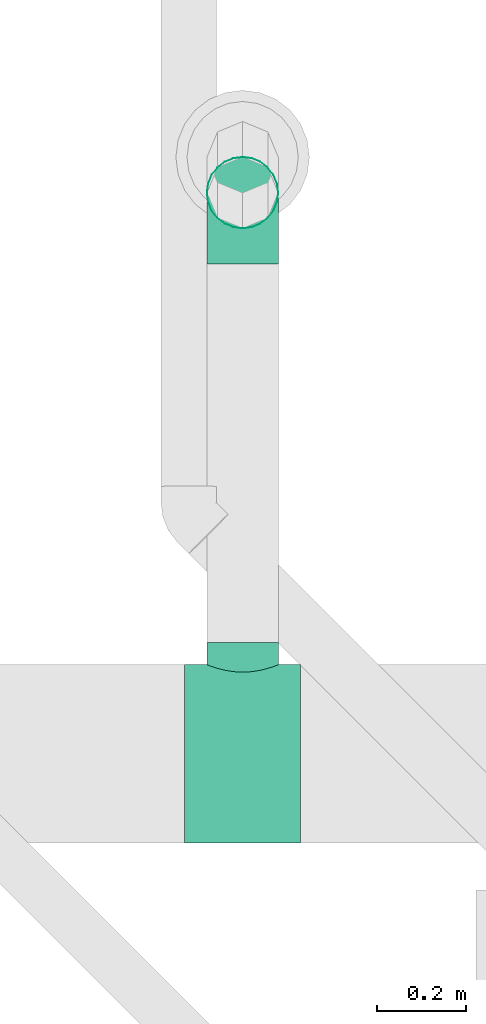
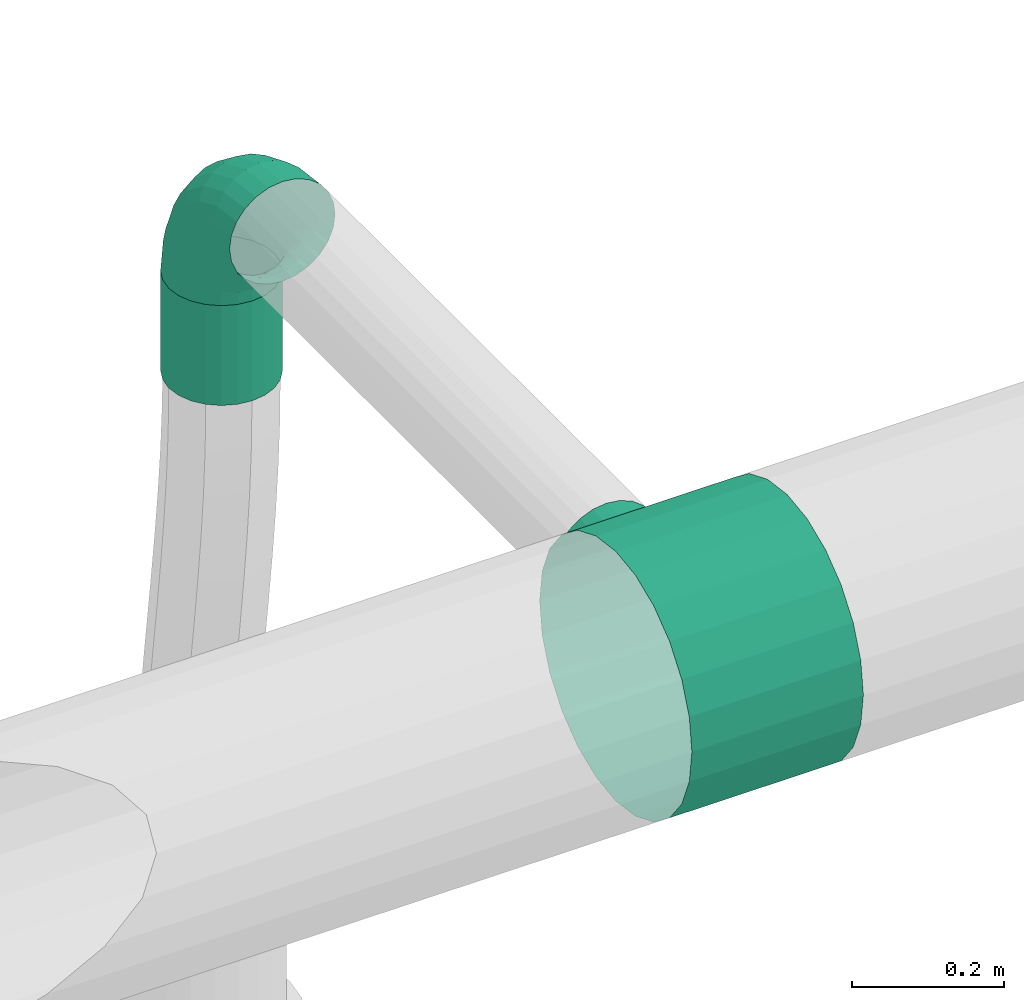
# One storey, part 151 of 374: 2 flow fittings, 1 flow segment.
"""IFC2X3 building model written with IfcOpenShell, lengths in metres."""

from ifc_helpers import new_model, si_unit, direction, origin, place, context, subcontext, project, spatial, open_shell, surface_model, source, transform, mapped, element, save


model = new_model("IFC2X3")

# Units and contexts
model_context = context("Model", 3, precision=1e-05, world=origin(), true_north=direction((-0.4480736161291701, 0.8939966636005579)))
body_context = subcontext(model_context, "Body", "Model", "MODEL_VIEW")
ifc_project = project(units=[si_unit("LENGTHUNIT", "METRE"), si_unit("AREAUNIT", "SQUARE_METRE"), si_unit("VOLUMEUNIT", "CUBIC_METRE"), si_unit("PLANEANGLEUNIT", "RADIAN"), si_unit("THERMODYNAMICTEMPERATUREUNIT", "KELVIN"), si_unit("MASSUNIT", "GRAM", prefix="KILO"), si_unit("TIMEUNIT", "SECOND")], contexts=[model_context])

# Site, building, storey
site_placement = place(None, origin())
site = spatial("IfcSite", under=ifc_project, at=site_placement, Name="Site 1", CompositionType="ELEMENT")
building_placement = place(site_placement, origin())
building = spatial("IfcBuilding", under=site, at=building_placement, Name="Undefined", CompositionType="ELEMENT")
storey_placement = place(building_placement, origin())
storey = spatial("IfcBuildingStorey", under=building, at=storey_placement, Name="Rez de chauss\x8ee", CompositionType="ELEMENT", Elevation=0.0)

# Flow fittings
shared_shape_1 = source(origin(), body_context, "Body", "SurfaceModel", [
    surface_model("IfcFaceBasedSurfaceModel", [(0.06265257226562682, -8.8817842e-16, 0.0), (0.062296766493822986, 0.02088115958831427, -7.105427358e-15), (0.0003558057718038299, 0.020881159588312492, 7.105427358e-15), (0.0, 0.0, 0.0), (-0.059474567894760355, 0.022956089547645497, -0.015896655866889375), (-0.06051773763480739, 0.002098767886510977, -0.01607928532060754), (-0.11311701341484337, 0.02696454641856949, -0.04660663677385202), (-0.11477645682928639, 0.006153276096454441, -0.04714207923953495), (-0.15691588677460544, 0.0326333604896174, -0.09003710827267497), (-0.15907851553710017, 0.01188721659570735, -0.09107150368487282), (-0.18788636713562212, 0.03957621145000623, -0.14322835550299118), (-0.1904048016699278, 0.01890983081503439, -0.14487384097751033), (-0.2039178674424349, 0.04731995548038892, -0.20255548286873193), (-0.20662048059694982, 0.026742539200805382, -0.20488255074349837), (0.061253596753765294, 0.04103889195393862, -0.0053597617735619), (0.0013989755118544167, 0.04103889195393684, -0.005359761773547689), (-0.05641614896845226, 0.04304393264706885, -0.02072097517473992), (-0.10825177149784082, 0.04691737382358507, -0.050396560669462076), (-0.15057538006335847, 0.05239524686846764, -0.09236417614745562), (-0.18050269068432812, 0.05910424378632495, -0.14376379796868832), (-0.19599420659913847, 0.06658715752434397, -0.20109262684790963), (0.05959415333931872, 0.05909948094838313, -0.01571402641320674), (0.003058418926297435, 0.05909948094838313, -0.01571402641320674), (-0.05155090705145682, 0.06099334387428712, -0.030223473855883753), (-0.10051228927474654, 0.06465200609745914, -0.058253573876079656), (-0.1404890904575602, 0.0698261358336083, -0.09789412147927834), (-0.16875695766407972, 0.0761631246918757, -0.14644367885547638), (-0.18338948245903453, 0.08323111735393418, -0.2005936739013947), (0.057431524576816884, 0.07383212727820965, -0.030357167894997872), (0.005221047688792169, 0.07383212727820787, -0.03035716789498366), (-0.0452104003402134, 0.07558110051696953, -0.04375657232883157), (-0.09042599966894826, 0.07895985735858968, -0.06964223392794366), (-0.12734438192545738, 0.08373814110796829, -0.10625008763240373), (-0.15344962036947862, 0.08959031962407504, -0.15108536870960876), (-0.16696268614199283, 0.0961175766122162, -0.20109262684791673), (0.054913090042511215, 0.0842328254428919, -0.048291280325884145), (0.007739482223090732, 0.08423282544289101, -0.04829128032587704), (-0.037826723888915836, 0.08581307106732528, -0.06039801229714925), (-0.07868026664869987, 0.08886587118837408, -0.08378642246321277), (-0.11203704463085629, 0.09318318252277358, -0.11686262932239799), (-0.13562384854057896, 0.09847078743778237, -0.1573725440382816), (-0.14783327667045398, 0.10436834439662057, -0.20255548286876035), (0.05221047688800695, 0.0895927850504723, -0.06829418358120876), (0.010442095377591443, 0.08959278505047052, -0.06829418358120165), (-0.029903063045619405, 0.09099196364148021, -0.07901370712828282), (-0.06607554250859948, 0.09369496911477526, -0.0997222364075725), (-0.0956102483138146, 0.0975175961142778, -0.12900851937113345), (-0.11649443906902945, 0.10219933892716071, -0.16487674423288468), (-0.12730489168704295, 0.1074211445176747, -0.2048825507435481), (0.04950786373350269, 0.08954673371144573, -0.08900271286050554), (0.013144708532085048, 0.08954673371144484, -0.08900271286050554), (-0.02197940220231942, 0.09076484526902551, -0.09833502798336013), (-0.05347081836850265, 0.09311805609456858, -0.11636367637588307), (-0.0791834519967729, 0.09644599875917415, -0.14186003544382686), (-0.09736502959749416, 0.10052187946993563, -0.17308657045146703), (-0.10677650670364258, 0.1050679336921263, -0.20791524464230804), (0.04698942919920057, 0.08409780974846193, -0.10900561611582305), (0.015663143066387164, 0.08409780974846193, -0.10900561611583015), (-0.014595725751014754, 0.08514719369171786, -0.11704525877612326), (-0.0417250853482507, 0.0871744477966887, -0.13257665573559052), (-0.06387611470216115, 0.09004141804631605, -0.15454136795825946), (-0.07953925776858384, 0.09355272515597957, -0.1814425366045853), (-0.08764709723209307, 0.09746907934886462, -0.21144689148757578), (0.04482680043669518, 0.0736173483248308, -0.12693972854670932), (0.017825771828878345, 0.0736173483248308, -0.12693972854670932), (-0.008255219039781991, 0.07452184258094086, -0.13386932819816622), (-0.03163879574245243, 0.0762691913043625, -0.14725628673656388), (-0.050731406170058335, 0.07874031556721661, -0.1661883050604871), (-0.06423192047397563, 0.08176681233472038, -0.18937519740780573), (-0.07122030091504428, 0.08514243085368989, -0.21523681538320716), (0.04316735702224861, 0.058819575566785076, -0.14158287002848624), (0.019485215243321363, 0.058819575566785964, -0.14158287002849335), (-0.0033899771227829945, 0.05961289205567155, -0.14766070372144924), (-0.02389931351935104, 0.06114546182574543, -0.15940217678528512), (-0.04064511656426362, 0.06331284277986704, -0.17600712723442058), (-0.052486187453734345, 0.06596733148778, -0.19634395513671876), (-0.05861557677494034, 0.06892802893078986, -0.2190267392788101), (0.04212418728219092, 0.040712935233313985, -0.15193713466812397), (0.020528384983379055, 0.040712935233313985, -0.15193713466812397), (-0.0003315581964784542, 0.041436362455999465, -0.15747952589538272), (-0.019034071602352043, 0.04283391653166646, -0.16818660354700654), (-0.03430460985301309, 0.04481035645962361, -0.1833286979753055), (-0.04510251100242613, 0.047230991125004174, -0.20187390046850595), (-0.05069191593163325, 0.04993085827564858, -0.22255838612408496), (0.04176838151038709, 0.02053136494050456, -0.15729689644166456), (0.020884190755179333, 0.02053136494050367, -0.15729689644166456), (0.0007116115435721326, 0.021230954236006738, -0.16265665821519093), (-0.017374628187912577, 0.022582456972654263, -0.17301092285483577), (-0.03214198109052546, 0.024493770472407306, -0.1876540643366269), (-0.042584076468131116, 0.026834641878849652, -0.20558817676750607), (-0.04798930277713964, 0.02944554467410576, -0.22559108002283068), (0.04212418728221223, -0.000349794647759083, -0.15729689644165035), (0.020528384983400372, -0.000349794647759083, -0.15729689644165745), (-0.0003315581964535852, 0.00037363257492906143, -0.1628392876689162), (-0.019034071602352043, 0.0017711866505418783, -0.17354636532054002), (-0.03430460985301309, 0.0037476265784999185, -0.18868845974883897), (-0.04510251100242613, 0.00616826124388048, -0.20723366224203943), (-0.05069191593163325, 0.008868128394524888, -0.22791814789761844), (0.04316735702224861, -0.020507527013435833, -0.15193713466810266), (0.019485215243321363, -0.020507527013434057, -0.15193713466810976), (-0.0033899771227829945, -0.019714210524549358, -0.15801496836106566), (-0.02389931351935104, -0.01818164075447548, -0.16975644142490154), (-0.04064511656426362, -0.01601425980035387, -0.186361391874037), (-0.052486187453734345, -0.013359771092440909, -0.20669821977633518), (-0.05861557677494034, -0.010399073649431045, -0.22938100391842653), (0.04482680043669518, -0.03856811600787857, -0.1415828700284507), (0.017825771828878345, -0.03856811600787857, -0.1415828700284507), (-0.008255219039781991, -0.03766362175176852, -0.1485124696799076), (-0.03163879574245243, -0.03591627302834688, -0.16189942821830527), (-0.050731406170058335, -0.03344514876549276, -0.1808314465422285), (-0.06423192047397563, -0.030418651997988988, -0.20401833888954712), (-0.07122030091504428, -0.027043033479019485, -0.22987995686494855), (0.04698942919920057, -0.05330076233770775, -0.12693972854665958), (0.015663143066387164, -0.05330076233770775, -0.12693972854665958), (-0.014595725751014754, -0.05225137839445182, -0.1349793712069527), (-0.0417250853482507, -0.05022412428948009, -0.15051076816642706), (-0.06387611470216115, -0.047357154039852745, -0.172475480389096), (-0.07953925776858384, -0.043845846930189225, -0.19937664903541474), (-0.08764709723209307, -0.03992949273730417, -0.2293810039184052), (0.04950786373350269, -0.06370146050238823, -0.10900561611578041), (0.013144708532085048, -0.06370146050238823, -0.10900561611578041), (-0.02197940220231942, -0.06248334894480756, -0.11833793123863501), (-0.05347081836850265, -0.06013013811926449, -0.13636657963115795), (-0.0791834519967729, -0.05680219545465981, -0.16186293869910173), (-0.09736502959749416, -0.05272631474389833, -0.1930894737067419), (-0.10677650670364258, -0.04818026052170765, -0.2279181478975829), (0.05221047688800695, -0.06906142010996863, -0.08900271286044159), (0.010442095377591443, -0.06906142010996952, -0.08900271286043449), (-0.029903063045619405, -0.06766224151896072, -0.09972223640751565), (-0.06607554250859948, -0.06495923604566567, -0.12043076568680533), (-0.0956102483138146, -0.06113660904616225, -0.14971704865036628), (-0.11649443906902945, -0.05645486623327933, -0.1855852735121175), (-0.12730489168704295, -0.05123306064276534, -0.22559108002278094), (0.054913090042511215, -0.06901536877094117, -0.06829418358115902), (0.007739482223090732, -0.06901536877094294, -0.06829418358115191), (-0.037826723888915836, -0.06743512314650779, -0.08040091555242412), (-0.07868026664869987, -0.06438232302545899, -0.10378932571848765), (-0.11203704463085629, -0.06006501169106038, -0.13686553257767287), (-0.13562384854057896, -0.0547774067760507, -0.17737544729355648), (-0.14783327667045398, -0.04887984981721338, -0.22255838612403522), (0.057431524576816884, -0.06356644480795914, -0.0482912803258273), (0.005221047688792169, -0.06356644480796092, -0.04829128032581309), (-0.0452104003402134, -0.061817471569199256, -0.0616906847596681), (-0.09042599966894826, -0.05843871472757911, -0.0875763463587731), (-0.12734438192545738, -0.05366043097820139, -0.12418420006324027), (-0.15344962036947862, -0.04780825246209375, -0.1690194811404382), (-0.16696268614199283, -0.041280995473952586, -0.21902673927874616), (0.05959415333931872, -0.05308598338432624, -0.030357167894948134), (0.003058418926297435, -0.05308598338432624, -0.030357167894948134), (-0.05155090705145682, -0.05119212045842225, -0.04486661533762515), (-0.10051228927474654, -0.04753345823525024, -0.07289671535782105), (-0.1404890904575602, -0.04235932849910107, -0.11253726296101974), (-0.16875695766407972, -0.03602233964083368, -0.16108682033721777), (-0.18338948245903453, -0.02895434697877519, -0.2152368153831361), (0.061253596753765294, -0.03828821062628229, -0.015714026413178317), (0.0013989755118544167, -0.03828821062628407, -0.015714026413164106), (-0.05641614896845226, -0.03628316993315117, -0.031075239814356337), (-0.10825177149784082, -0.03240972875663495, -0.06075082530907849), (-0.15057538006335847, -0.026931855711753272, -0.10271844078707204), (-0.18050269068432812, -0.02022285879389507, -0.15411806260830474), (-0.19599420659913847, -0.012739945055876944, -0.21144689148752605), (0.062296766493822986, -0.020181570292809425, -0.005359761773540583), (0.0003558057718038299, -0.020181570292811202, -0.0053597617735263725), (-0.059474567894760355, -0.018106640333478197, -0.021256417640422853), (-0.11311701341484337, -0.014098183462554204, -0.051966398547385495), (-0.15691588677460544, -0.00842936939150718, -0.09539687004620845), (-0.18788636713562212, -0.0014865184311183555, -0.14858811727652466), (-0.2039178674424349, 0.006257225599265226, -0.2079152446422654)], [open_shell([[[0, 1, 2, 3]], [[3, 2, 4, 5]], [[5, 4, 6, 7]], [[7, 6, 8, 9]], [[9, 8, 10, 11]], [[11, 10, 12, 13]], [[1, 14, 15, 2]], [[2, 15, 16, 4]], [[4, 16, 17, 6]], [[6, 17, 18, 8]], [[8, 18, 19, 10]], [[10, 19, 20, 12]], [[14, 21, 22, 15]], [[15, 22, 23, 16]], [[16, 23, 24, 17]], [[17, 24, 25, 18]], [[18, 25, 26, 19]], [[19, 26, 27, 20]], [[21, 28, 29, 22]], [[22, 29, 30, 23]], [[23, 30, 31, 24]], [[24, 31, 32, 25]], [[25, 32, 33, 26]], [[26, 33, 34, 27]], [[28, 35, 36, 29]], [[29, 36, 37, 30]], [[30, 37, 38, 31]], [[31, 38, 39, 32]], [[32, 39, 40, 33]], [[33, 40, 41, 34]], [[35, 42, 43, 36]], [[36, 43, 44, 37]], [[37, 44, 45, 38]], [[38, 45, 46, 39]], [[39, 46, 47, 40]], [[40, 47, 48, 41]], [[42, 49, 50, 43]], [[43, 50, 51, 44]], [[44, 51, 52, 45]], [[45, 52, 53, 46]], [[46, 53, 54, 47]], [[47, 54, 55, 48]], [[49, 56, 57, 50]], [[50, 57, 58, 51]], [[51, 58, 59, 52]], [[52, 59, 60, 53]], [[53, 60, 61, 54]], [[54, 61, 62, 55]], [[56, 63, 64, 57]], [[57, 64, 65, 58]], [[58, 65, 66, 59]], [[59, 66, 67, 60]], [[60, 67, 68, 61]], [[61, 68, 69, 62]], [[63, 70, 71, 64]], [[64, 71, 72, 65]], [[65, 72, 73, 66]], [[66, 73, 74, 67]], [[67, 74, 75, 68]], [[68, 75, 76, 69]], [[70, 77, 78, 71]], [[71, 78, 79, 72]], [[72, 79, 80, 73]], [[73, 80, 81, 74]], [[74, 81, 82, 75]], [[75, 82, 83, 76]], [[77, 84, 85, 78]], [[78, 85, 86, 79]], [[79, 86, 87, 80]], [[80, 87, 88, 81]], [[81, 88, 89, 82]], [[82, 89, 90, 83]], [[84, 91, 92, 85]], [[85, 92, 93, 86]], [[86, 93, 94, 87]], [[87, 94, 95, 88]], [[88, 95, 96, 89]], [[89, 96, 97, 90]], [[91, 98, 99, 92]], [[92, 99, 100, 93]], [[93, 100, 101, 94]], [[94, 101, 102, 95]], [[95, 102, 103, 96]], [[96, 103, 104, 97]], [[98, 105, 106, 99]], [[99, 106, 107, 100]], [[100, 107, 108, 101]], [[101, 108, 109, 102]], [[102, 109, 110, 103]], [[103, 110, 111, 104]], [[105, 112, 113, 106]], [[106, 113, 114, 107]], [[107, 114, 115, 108]], [[108, 115, 116, 109]], [[109, 116, 117, 110]], [[110, 117, 118, 111]], [[112, 119, 120, 113]], [[113, 120, 121, 114]], [[114, 121, 122, 115]], [[115, 122, 123, 116]], [[116, 123, 124, 117]], [[117, 124, 125, 118]], [[119, 126, 127, 120]], [[120, 127, 128, 121]], [[121, 128, 129, 122]], [[122, 129, 130, 123]], [[123, 130, 131, 124]], [[124, 131, 132, 125]], [[126, 133, 134, 127]], [[127, 134, 135, 128]], [[128, 135, 136, 129]], [[129, 136, 137, 130]], [[130, 137, 138, 131]], [[131, 138, 139, 132]], [[133, 140, 141, 134]], [[134, 141, 142, 135]], [[135, 142, 143, 136]], [[136, 143, 144, 137]], [[137, 144, 145, 138]], [[138, 145, 146, 139]], [[140, 147, 148, 141]], [[141, 148, 149, 142]], [[142, 149, 150, 143]], [[143, 150, 151, 144]], [[144, 151, 152, 145]], [[145, 152, 153, 146]], [[147, 154, 155, 148]], [[148, 155, 156, 149]], [[149, 156, 157, 150]], [[150, 157, 158, 151]], [[151, 158, 159, 152]], [[152, 159, 160, 153]], [[154, 161, 162, 155]], [[155, 162, 163, 156]], [[156, 163, 164, 157]], [[157, 164, 165, 158]], [[158, 165, 166, 159]], [[159, 166, 167, 160]], [[161, 0, 3, 162]], [[162, 3, 5, 163]], [[163, 5, 7, 164]], [[164, 7, 9, 165]], [[165, 9, 11, 166]], [[166, 11, 13, 167]]])]),
])
flow_fitting_1_placement = place(storey_placement, origin())
element("IfcFlowFitting", 1, at=flow_fitting_1_placement, inside=storey, Name="Coude", ObjectType="Coude", context=body_context, shape_type="MappedRepresentation", body=[
    mapped(shared_shape_1, transform((38.2932894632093, 21.858710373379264, 3.7021165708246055), x_axis=(0.0, 0.13052619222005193, -0.9914448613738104), y_axis=(-0.9915887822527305, -0.12832103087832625, -0.016893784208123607), z_axis=(-0.12942830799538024, 0.9831056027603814, 0.12942830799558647))),
])
shared_shape_2 = source(origin(), body_context, "Body", "SurfaceModel", [
    surface_model("IfcFaceBasedSurfaceModel", [(0.0, 0.05221047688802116, -8.8817842e-16), (0.0, 0.0, 0.0), (0.2599999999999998, -7.105427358e-15, 0.0), (0.2599999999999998, 0.05221047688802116, -8.8817842e-16), (0.0, -0.05043144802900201, -0.013513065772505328), (0.2599999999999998, -0.05043144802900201, -0.013513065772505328), (0.0, -0.09564704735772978, -0.0396183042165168), (0.2599999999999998, -0.09564704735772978, -0.0396183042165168), (0.0, -0.1325654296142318, -0.07653668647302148), (0.2599999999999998, -0.1325654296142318, -0.07653668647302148), (0.0, -0.15867066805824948, -0.12175228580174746), (0.2599999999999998, -0.15867066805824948, -0.12175228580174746), (0.0, -0.17218373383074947, -0.17218373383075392), (0.2599999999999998, -0.17218373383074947, -0.17218373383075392), (0.0, -0.17218373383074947, -0.22439421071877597), (0.2599999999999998, -0.17218373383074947, -0.22439421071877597), (0.0, -0.15867066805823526, -0.2748256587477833), (0.2599999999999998, -0.15867066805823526, -0.2748256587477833), (0.0, -0.1325654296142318, -0.3200412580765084), (0.2599999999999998, -0.1325654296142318, -0.3200412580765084), (0.0, -0.09564704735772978, -0.35695964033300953), (0.2599999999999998, -0.09564704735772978, -0.35695964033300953), (0.0, -0.050431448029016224, -0.3830648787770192), (0.2599999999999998, -0.050431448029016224, -0.3830648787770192), (0.0, 0.0, -0.39657794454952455), (0.2599999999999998, 0.0, -0.39657794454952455), (0.0, 0.05221047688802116, -0.3965779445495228), (0.2599999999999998, 0.05221047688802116, -0.3965779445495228), (0.0, 0.10264192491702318, -0.38306487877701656), (0.2599999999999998, 0.10264192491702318, -0.38306487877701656), (0.0, 0.14785752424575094, -0.356959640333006), (0.2599999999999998, 0.14785752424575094, -0.356959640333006), (0.0, 0.18477590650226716, -0.32004125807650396), (0.2599999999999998, 0.18477590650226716, -0.32004125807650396), (0.0, 0.21088114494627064, -0.2748256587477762), (0.2599999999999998, 0.21088114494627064, -0.2748256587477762), (0.0, 0.22439421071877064, -0.22439421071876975), (0.2599999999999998, 0.22439421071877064, -0.22439421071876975), (0.0, 0.22439421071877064, -0.1721837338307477), (0.2599999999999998, 0.22439421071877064, -0.1721837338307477), (0.0, 0.21088114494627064, -0.12175228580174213), (0.2599999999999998, 0.21088114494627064, -0.12175228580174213), (0.0, 0.18477590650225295, -0.07653668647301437), (0.2599999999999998, 0.18477590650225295, -0.07653668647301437), (0.0, 0.14785752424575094, -0.03961830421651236), (0.2599999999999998, 0.14785752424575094, -0.03961830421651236), (0.0, 0.10264192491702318, -0.013513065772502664), (0.2599999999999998, 0.10264192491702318, -0.013513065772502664), (0.20999999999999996, 0.22439421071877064, -0.22439421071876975), (0.2072740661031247, 0.2206261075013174, -0.24478232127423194), (0.2072740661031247, 0.2712638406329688, -0.2514489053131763), (0.20999999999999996, 0.273966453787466, -0.23092052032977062), (0.19928203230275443, 0.21516691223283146, -0.263524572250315), (0.19928203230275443, 0.2687454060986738, -0.27057831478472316), (0.18656854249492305, 0.20891366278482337, -0.2794128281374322), (0.18656854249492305, 0.2665827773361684, -0.2870051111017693), (0.16999999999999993, 0.20307366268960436, -0.291467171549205), (0.16999999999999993, 0.26492333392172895, -0.29960983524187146), (0.15070552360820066, 0.19890954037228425, -0.2989799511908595), (0.15070552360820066, 0.26388016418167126, -0.307533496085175), (0.1299999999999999, 0.19739798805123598, -0.3015304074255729), (0.1299999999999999, 0.26352435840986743, -0.3102361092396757), (0.10929447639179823, 0.19890954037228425, -0.2989799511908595), (0.10929447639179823, 0.26388016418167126, -0.307533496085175), (0.08999999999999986, 0.20307366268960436, -0.291467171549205), (0.08999999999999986, 0.26492333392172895, -0.29960983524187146), (0.07343145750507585, 0.20891366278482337, -0.2794128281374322), (0.07343145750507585, 0.2665827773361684, -0.2870051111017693), (0.06071796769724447, 0.21516691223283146, -0.263524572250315), (0.06071796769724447, 0.2687454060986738, -0.27057831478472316), (0.05272593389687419, 0.2206261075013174, -0.24478232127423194), (0.05272593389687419, 0.2712638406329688, -0.2514489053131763), (0.04999999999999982, 0.22439421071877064, -0.22439421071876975), (0.04999999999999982, 0.273966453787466, -0.23092052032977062), (0.05272593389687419, 0.22603133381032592, -0.20372555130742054), (0.05272593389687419, 0.27666906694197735, -0.21039213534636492), (0.06071796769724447, 0.22560900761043, -0.18420898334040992), (0.06071796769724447, 0.27918750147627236, -0.19126272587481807), (0.07343145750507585, 0.2236810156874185, -0.16724364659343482), (0.07343145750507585, 0.28135013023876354, -0.17483592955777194), (0.08999999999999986, 0.22115990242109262, -0.1540885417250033), (0.08999999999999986, 0.2830095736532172, -0.16223120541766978), (0.10929447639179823, 0.2190821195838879, -0.14575399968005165), (0.10929447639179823, 0.2840527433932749, -0.15430754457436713), (0.1299999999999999, 0.2182821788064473, -0.14289922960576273), (0.1299999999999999, 0.28440854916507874, -0.15160493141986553), (0.15070552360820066, 0.2190821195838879, -0.14575399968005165), (0.15070552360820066, 0.2840527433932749, -0.15430754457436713), (0.16999999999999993, 0.22115990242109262, -0.1540885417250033), (0.16999999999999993, 0.2830095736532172, -0.16223120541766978), (0.18656854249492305, 0.2236810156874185, -0.16724364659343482), (0.18656854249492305, 0.28135013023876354, -0.17483592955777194), (0.19928203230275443, 0.22560900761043, -0.18420898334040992), (0.19928203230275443, 0.27918750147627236, -0.19126272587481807), (0.2072740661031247, 0.22603133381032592, -0.20372555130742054), (0.2072740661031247, 0.27666906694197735, -0.21039213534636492)], [open_shell([[[0, 1, 2, 3]], [[1, 4, 5, 2]], [[4, 6, 7, 5]], [[6, 8, 9, 7]], [[8, 10, 11, 9]], [[10, 12, 13, 11]], [[12, 14, 15, 13]], [[14, 16, 17, 15]], [[16, 18, 19, 17]], [[18, 20, 21, 19]], [[20, 22, 23, 21]], [[22, 24, 25, 23]], [[24, 26, 27, 25]], [[26, 28, 29, 27]], [[28, 30, 31, 29]], [[30, 32, 33, 31]], [[32, 34, 35, 33]], [[34, 36, 37, 35]], [[36, 38, 39, 37]], [[38, 40, 41, 39]], [[40, 42, 43, 41]], [[42, 44, 45, 43]], [[44, 46, 47, 45]], [[46, 0, 3, 47]], [[48, 49, 50, 51]], [[49, 52, 53, 50]], [[52, 54, 55, 53]], [[54, 56, 57, 55]], [[56, 58, 59, 57]], [[58, 60, 61, 59]], [[60, 62, 63, 61]], [[62, 64, 65, 63]], [[64, 66, 67, 65]], [[66, 68, 69, 67]], [[68, 70, 71, 69]], [[70, 72, 73, 71]], [[72, 74, 75, 73]], [[74, 76, 77, 75]], [[76, 78, 79, 77]], [[78, 80, 81, 79]], [[80, 82, 83, 81]], [[82, 84, 85, 83]], [[84, 86, 87, 85]], [[86, 88, 89, 87]], [[88, 90, 91, 89]], [[90, 92, 93, 91]], [[92, 94, 95, 93]], [[94, 48, 51, 95]]])]),
])
flow_fitting_2_placement = place(storey_placement, origin())
element("IfcFlowFitting", 2, at=flow_fitting_2_placement, inside=storey, Name="Pièce en té 90°", ObjectType="Pièce en té 90°", context=body_context, shape_type="MappedRepresentation", body=[
    mapped(shared_shape_2, transform((38.163289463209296, 20.475124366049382, 3.9931851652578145), x_axis=(1.0, 0.0, 0.0), y_axis=(0.0, 0.9914448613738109, 0.1305261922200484), z_axis=(0.0, -0.1305261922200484, 0.9914448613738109))),
])

# Flow segment
shared_shape_3 = source(origin(), body_context, "Body", "SurfaceModel", [
    surface_model("IfcFaceBasedSurfaceModel", [(0.0, 0.020884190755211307, 0.0), (0.0, 0.0, 0.0), (0.16000000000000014, 0.0, -4.4408921e-16), (0.16000000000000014, 0.0208841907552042, -4.4408921e-16), (0.0, -0.020172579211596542, -0.005405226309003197), (0.16000000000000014, -0.020172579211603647, -0.005405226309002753), (0.0, -0.03825881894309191, -0.015847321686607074), (0.16000000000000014, -0.03825881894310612, -0.015847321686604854), (0.0, -0.05302617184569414, -0.0306146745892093), (0.16000000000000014, -0.05302617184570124, -0.03061467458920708), (0.0, -0.06346826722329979, -0.04870091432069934), (0.16000000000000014, -0.0634682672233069, -0.04870091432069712), (0.0, -0.06887349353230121, -0.06887349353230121), (0.16000000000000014, -0.06887349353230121, -0.06887349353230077), (0.0, -0.06887349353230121, -0.08975768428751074), (0.16000000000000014, -0.06887349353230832, -0.08975768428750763), (0.0, -0.06346826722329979, -0.10993026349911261), (0.16000000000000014, -0.0634682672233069, -0.10993026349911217), (0.0, -0.05302617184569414, -0.12801650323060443), (0.16000000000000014, -0.05302617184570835, -0.1280165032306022), (0.0, -0.038258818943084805, -0.14278385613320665), (0.16000000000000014, -0.03825881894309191, -0.14278385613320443), (0.0, -0.020172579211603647, -0.15322595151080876), (0.16000000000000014, -0.020172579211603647, -0.1532259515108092), (0.0, 7.105427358e-15, -0.15863117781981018), (0.16000000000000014, -7.105427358e-15, -0.15863117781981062), (0.0, 0.020884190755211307, -0.15863117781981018), (0.16000000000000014, 0.0208841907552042, -0.15863117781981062), (0.0, 0.04105676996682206, -0.15322595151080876), (0.16000000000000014, 0.04105676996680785, -0.1532259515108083), (0.0, 0.05914300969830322, -0.1427838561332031), (0.16000000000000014, 0.05914300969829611, -0.14278385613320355), (0.0, 0.07391036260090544, -0.12801650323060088), (0.16000000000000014, 0.07391036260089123, -0.1280165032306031), (0.0, 0.0843524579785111, -0.10993026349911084), (0.16000000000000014, 0.08435245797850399, -0.10993026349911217), (0.0, 0.08975768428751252, -0.08975768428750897), (0.16000000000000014, 0.08975768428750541, -0.08975768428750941), (0.0, 0.08975768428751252, -0.06887349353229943), (0.16000000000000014, 0.08975768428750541, -0.06887349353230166), (0.0, 0.0843524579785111, -0.048700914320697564), (0.16000000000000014, 0.08435245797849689, -0.04870091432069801), (0.0, 0.07391036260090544, -0.030614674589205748), (0.16000000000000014, 0.07391036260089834, -0.03061467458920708), (0.0, 0.05914300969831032, -0.015847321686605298), (0.16000000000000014, 0.05914300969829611, -0.01584732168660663), (0.0, 0.04105676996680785, -0.005405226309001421), (0.16000000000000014, 0.04105676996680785, -0.005405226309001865)], [open_shell([[[0, 1, 2, 3]], [[1, 4, 5, 2]], [[4, 6, 7, 5]], [[6, 8, 9, 7]], [[8, 10, 11, 9]], [[10, 12, 13, 11]], [[12, 14, 15, 13]], [[14, 16, 17, 15]], [[16, 18, 19, 17]], [[18, 20, 21, 19]], [[20, 22, 23, 21]], [[22, 24, 25, 23]], [[24, 26, 27, 25]], [[26, 28, 29, 27]], [[28, 30, 31, 29]], [[30, 32, 33, 31]], [[32, 34, 35, 33]], [[34, 36, 37, 35]], [[36, 38, 39, 37]], [[38, 40, 41, 39]], [[40, 42, 43, 41]], [[42, 44, 45, 43]], [[44, 46, 47, 45]], [[46, 0, 3, 47]]])]),
])
flow_segment_placement = place(storey_placement, origin())
element("IfcFlowSegment", 3, at=flow_segment_placement, inside=storey, Name="Tube", ObjectType="Tube", context=body_context, shape_type="MappedRepresentation", body=[
    mapped(shared_shape_3, transform((38.3139949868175, 21.70961410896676, 3.4800000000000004), x_axis=(0.0, 0.0, 1.0), y_axis=(-0.9914448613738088, -0.13052619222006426, 0.0), z_axis=(0.13052619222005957, -0.9914448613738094, 0.0))),
])

save(model, "model.ifc")
